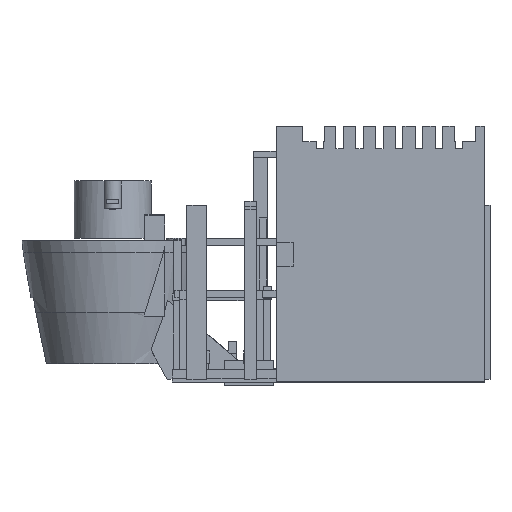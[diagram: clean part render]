
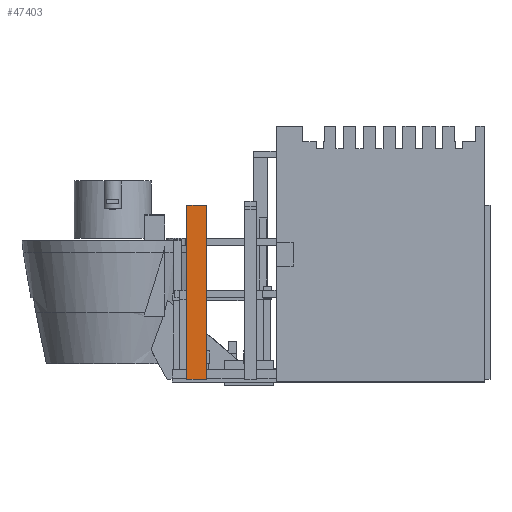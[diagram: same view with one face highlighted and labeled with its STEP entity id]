
A CAD part, front view. The second image highlights one B-rep face of the part: STEP entity #47403.
In plain terms, the highlighted planar face has unit normal (0, -1, 0).
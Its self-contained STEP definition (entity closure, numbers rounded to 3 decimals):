
#12210 = PLANE('',#12211);
#12211 = AXIS2_PLACEMENT_3D('',#12212,#12213,#12214);
#12212 = CARTESIAN_POINT('',(-100.1,-100.5,41.));
#12213 = DIRECTION('',(1.,0.,0.));
#12214 = DIRECTION('',(0.,0.,1.));
#12236 = PLANE('',#12237);
#12237 = AXIS2_PLACEMENT_3D('',#12238,#12239,#12240);
#12238 = CARTESIAN_POINT('',(-100.1,-100.5,41.));
#12239 = DIRECTION('',(0.,0.,1.));
#12240 = DIRECTION('',(1.,0.,0.));
#12262 = PLANE('',#12263);
#12263 = AXIS2_PLACEMENT_3D('',#12264,#12265,#12266);
#12264 = CARTESIAN_POINT('',(-92.1,-100.5,41.));
#12265 = DIRECTION('',(1.,0.,0.));
#12266 = DIRECTION('',(0.,0.,1.));
#27602 = VERTEX_POINT('',#27603);
#27603 = CARTESIAN_POINT('',(-92.1,-100.5,111.3));
#27619 = PLANE('',#27620);
#27620 = AXIS2_PLACEMENT_3D('',#27621,#27622,#27623);
#27621 = CARTESIAN_POINT('',(-100.1,-100.5,111.3));
#27622 = DIRECTION('',(0.,0.,1.));
#27623 = DIRECTION('',(1.,0.,0.));
#27631 = EDGE_CURVE('',#27632,#27602,#27634,.T.);
#27632 = VERTEX_POINT('',#27633);
#27633 = CARTESIAN_POINT('',(-92.1,-100.5,41.));
#27634 = SURFACE_CURVE('',#27635,(#27639,#27646),.PCURVE_S1.);
#27635 = LINE('',#27636,#27637);
#27636 = CARTESIAN_POINT('',(-92.1,-100.5,41.));
#27637 = VECTOR('',#27638,1.);
#27638 = DIRECTION('',(0.,0.,1.));
#27639 = PCURVE('',#12262,#27640);
#27640 = DEFINITIONAL_REPRESENTATION('',(#27641),#27645);
#27641 = LINE('',#27642,#27643);
#27642 = CARTESIAN_POINT('',(0.,0.));
#27643 = VECTOR('',#27644,1.);
#27644 = DIRECTION('',(1.,0.));
#27645 = ( GEOMETRIC_REPRESENTATION_CONTEXT(2) 
PARAMETRIC_REPRESENTATION_CONTEXT() REPRESENTATION_CONTEXT('2D SPACE',''
  ) );
#27646 = PCURVE('',#27647,#27652);
#27647 = PLANE('',#27648);
#27648 = AXIS2_PLACEMENT_3D('',#27649,#27650,#27651);
#27649 = CARTESIAN_POINT('',(-100.1,-100.5,41.));
#27650 = DIRECTION('',(0.,1.,0.));
#27651 = DIRECTION('',(0.,0.,1.));
#27652 = DEFINITIONAL_REPRESENTATION('',(#27653),#27657);
#27653 = LINE('',#27654,#27655);
#27654 = CARTESIAN_POINT('',(0.,8.));
#27655 = VECTOR('',#27656,1.);
#27656 = DIRECTION('',(1.,0.));
#27657 = ( GEOMETRIC_REPRESENTATION_CONTEXT(2) 
PARAMETRIC_REPRESENTATION_CONTEXT() REPRESENTATION_CONTEXT('2D SPACE',''
  ) );
#27707 = VERTEX_POINT('',#27708);
#27708 = CARTESIAN_POINT('',(-100.1,-100.5,41.));
#27729 = EDGE_CURVE('',#27707,#27632,#27730,.T.);
#27730 = SURFACE_CURVE('',#27731,(#27735,#27742),.PCURVE_S1.);
#27731 = LINE('',#27732,#27733);
#27732 = CARTESIAN_POINT('',(-100.1,-100.5,41.));
#27733 = VECTOR('',#27734,1.);
#27734 = DIRECTION('',(1.,0.,0.));
#27735 = PCURVE('',#12236,#27736);
#27736 = DEFINITIONAL_REPRESENTATION('',(#27737),#27741);
#27737 = LINE('',#27738,#27739);
#27738 = CARTESIAN_POINT('',(0.,0.));
#27739 = VECTOR('',#27740,1.);
#27740 = DIRECTION('',(1.,0.));
#27741 = ( GEOMETRIC_REPRESENTATION_CONTEXT(2) 
PARAMETRIC_REPRESENTATION_CONTEXT() REPRESENTATION_CONTEXT('2D SPACE',''
  ) );
#27742 = PCURVE('',#27647,#27743);
#27743 = DEFINITIONAL_REPRESENTATION('',(#27744),#27748);
#27744 = LINE('',#27745,#27746);
#27745 = CARTESIAN_POINT('',(0.,0.));
#27746 = VECTOR('',#27747,1.);
#27747 = DIRECTION('',(0.,1.));
#27748 = ( GEOMETRIC_REPRESENTATION_CONTEXT(2) 
PARAMETRIC_REPRESENTATION_CONTEXT() REPRESENTATION_CONTEXT('2D SPACE',''
  ) );
#27756 = VERTEX_POINT('',#27757);
#27757 = CARTESIAN_POINT('',(-100.1,-100.5,111.3));
#27780 = EDGE_CURVE('',#27707,#27756,#27781,.T.);
#27781 = SURFACE_CURVE('',#27782,(#27786,#27793),.PCURVE_S1.);
#27782 = LINE('',#27783,#27784);
#27783 = CARTESIAN_POINT('',(-100.1,-100.5,41.));
#27784 = VECTOR('',#27785,1.);
#27785 = DIRECTION('',(0.,0.,1.));
#27786 = PCURVE('',#12210,#27787);
#27787 = DEFINITIONAL_REPRESENTATION('',(#27788),#27792);
#27788 = LINE('',#27789,#27790);
#27789 = CARTESIAN_POINT('',(0.,0.));
#27790 = VECTOR('',#27791,1.);
#27791 = DIRECTION('',(1.,0.));
#27792 = ( GEOMETRIC_REPRESENTATION_CONTEXT(2) 
PARAMETRIC_REPRESENTATION_CONTEXT() REPRESENTATION_CONTEXT('2D SPACE',''
  ) );
#27793 = PCURVE('',#27647,#27794);
#27794 = DEFINITIONAL_REPRESENTATION('',(#27795),#27799);
#27795 = LINE('',#27796,#27797);
#27796 = CARTESIAN_POINT('',(0.,0.));
#27797 = VECTOR('',#27798,1.);
#27798 = DIRECTION('',(1.,0.));
#27799 = ( GEOMETRIC_REPRESENTATION_CONTEXT(2) 
PARAMETRIC_REPRESENTATION_CONTEXT() REPRESENTATION_CONTEXT('2D SPACE',''
  ) );
#47275 = EDGE_CURVE('',#27756,#27602,#47276,.T.);
#47276 = SURFACE_CURVE('',#47277,(#47281,#47288),.PCURVE_S1.);
#47277 = LINE('',#47278,#47279);
#47278 = CARTESIAN_POINT('',(-100.1,-100.5,111.3));
#47279 = VECTOR('',#47280,1.);
#47280 = DIRECTION('',(1.,0.,0.));
#47281 = PCURVE('',#27619,#47282);
#47282 = DEFINITIONAL_REPRESENTATION('',(#47283),#47287);
#47283 = LINE('',#47284,#47285);
#47284 = CARTESIAN_POINT('',(0.,0.));
#47285 = VECTOR('',#47286,1.);
#47286 = DIRECTION('',(1.,0.));
#47287 = ( GEOMETRIC_REPRESENTATION_CONTEXT(2) 
PARAMETRIC_REPRESENTATION_CONTEXT() REPRESENTATION_CONTEXT('2D SPACE',''
  ) );
#47288 = PCURVE('',#27647,#47289);
#47289 = DEFINITIONAL_REPRESENTATION('',(#47290),#47294);
#47290 = LINE('',#47291,#47292);
#47291 = CARTESIAN_POINT('',(70.3,0.));
#47292 = VECTOR('',#47293,1.);
#47293 = DIRECTION('',(0.,1.));
#47294 = ( GEOMETRIC_REPRESENTATION_CONTEXT(2) 
PARAMETRIC_REPRESENTATION_CONTEXT() REPRESENTATION_CONTEXT('2D SPACE',''
  ) );
#47403 = ADVANCED_FACE('',(#47404),#27647,.F.);
#47404 = FACE_BOUND('',#47405,.F.);
#47405 = EDGE_LOOP('',(#47406,#47407,#47408,#47409));
#47406 = ORIENTED_EDGE('',*,*,#27729,.F.);
#47407 = ORIENTED_EDGE('',*,*,#27780,.T.);
#47408 = ORIENTED_EDGE('',*,*,#47275,.T.);
#47409 = ORIENTED_EDGE('',*,*,#27631,.F.);
